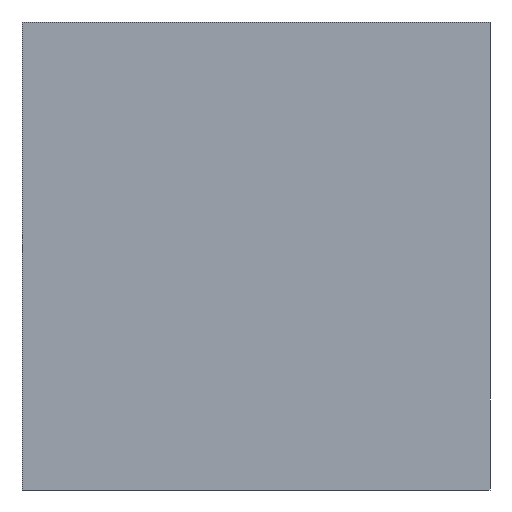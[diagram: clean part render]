
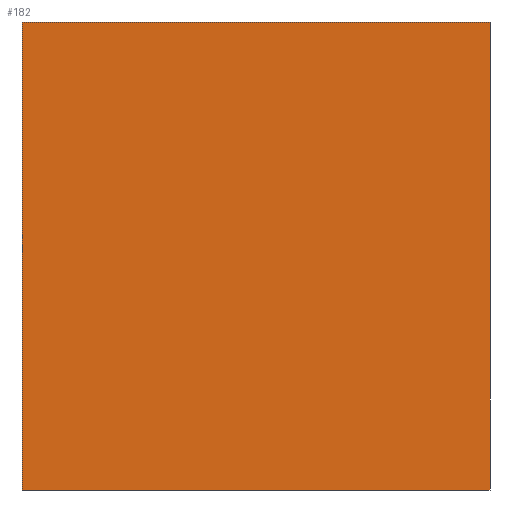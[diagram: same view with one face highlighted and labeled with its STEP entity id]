
A CAD part, front view. The second image highlights one B-rep face of the part: STEP entity #182.
In plain terms, the highlighted planar face has unit normal (0, -1, 0).
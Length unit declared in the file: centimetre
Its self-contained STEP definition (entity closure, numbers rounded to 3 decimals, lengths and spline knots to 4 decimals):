
#41 = LINE ( 'NONE', #299, #389 ) ;
#85 = CARTESIAN_POINT ( 'NONE',  ( 0., 0., 0. ) ) ;
#90 = EDGE_CURVE ( 'NONE', #352, #290, #191, .T. ) ;
#100 = ORIENTED_EDGE ( 'NONE', *, *, #126, .T. ) ;
#123 = DIRECTION ( 'NONE',  ( 0., 1., 0. ) ) ;
#126 = EDGE_CURVE ( 'NONE', #329, #290, #41, .T. ) ;
#139 = CARTESIAN_POINT ( 'NONE',  ( 0., 0., 1000. ) ) ;
#163 = DIRECTION ( 'NONE',  ( 0., 0., -1. ) ) ;
#182 = ADVANCED_FACE ( 'NONE', ( #259 ), #402, .F. ) ;
#191 = LINE ( 'NONE', #332, #288 ) ;
#204 = ORIENTED_EDGE ( 'NONE', *, *, #90, .F. ) ;
#226 = CARTESIAN_POINT ( 'NONE',  ( 0., 0., 1000. ) ) ;
#230 = EDGE_CURVE ( 'NONE', #459, #352, #413, .T. ) ;
#241 = EDGE_LOOP ( 'NONE', ( #100, #204, #461, #323 ) ) ;
#249 = EDGE_CURVE ( 'NONE', #459, #329, #303, .T. ) ;
#259 = FACE_OUTER_BOUND ( 'NONE', #241, .T. ) ;
#288 = VECTOR ( 'NONE', #293, 100. ) ;
#290 = VERTEX_POINT ( 'NONE', #381 ) ;
#293 = DIRECTION ( 'NONE',  ( 0., 0., -1. ) ) ;
#294 = VECTOR ( 'NONE', #374, 100. ) ;
#299 = CARTESIAN_POINT ( 'NONE',  ( 0., 0., 0. ) ) ;
#303 = LINE ( 'NONE', #339, #325 ) ;
#304 = CARTESIAN_POINT ( 'NONE',  ( 0., 0., 1000. ) ) ;
#323 = ORIENTED_EDGE ( 'NONE', *, *, #249, .T. ) ;
#325 = VECTOR ( 'NONE', #163, 100. ) ;
#329 = VERTEX_POINT ( 'NONE', #85 ) ;
#332 = CARTESIAN_POINT ( 'NONE',  ( 1000., 0., 1000. ) ) ;
#339 = CARTESIAN_POINT ( 'NONE',  ( 0., 0., 1000. ) ) ;
#352 = VERTEX_POINT ( 'NONE', #444 ) ;
#374 = DIRECTION ( 'NONE',  ( 1., 0., 0. ) ) ;
#375 = DIRECTION ( 'NONE',  ( 0., 0., 1. ) ) ;
#381 = CARTESIAN_POINT ( 'NONE',  ( 1000., 0., 0. ) ) ;
#389 = VECTOR ( 'NONE', #404, 100. ) ;
#402 = PLANE ( 'NONE',  #425 ) ;
#404 = DIRECTION ( 'NONE',  ( 1., 0., 0. ) ) ;
#413 = LINE ( 'NONE', #304, #294 ) ;
#425 = AXIS2_PLACEMENT_3D ( 'NONE', #226, #123, #375 ) ;
#444 = CARTESIAN_POINT ( 'NONE',  ( 1000., 0., 1000. ) ) ;
#459 = VERTEX_POINT ( 'NONE', #139 ) ;
#461 = ORIENTED_EDGE ( 'NONE', *, *, #230, .F. ) ;
